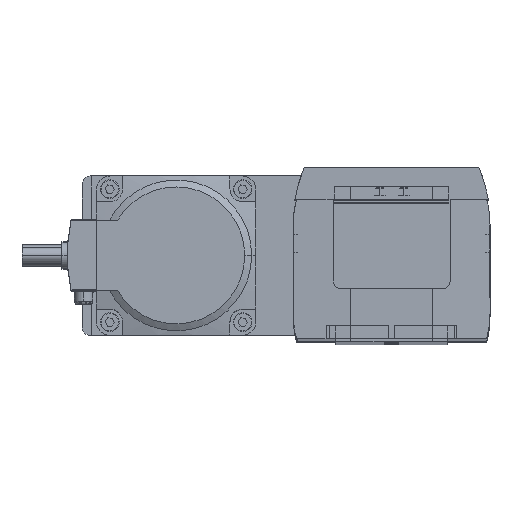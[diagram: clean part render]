
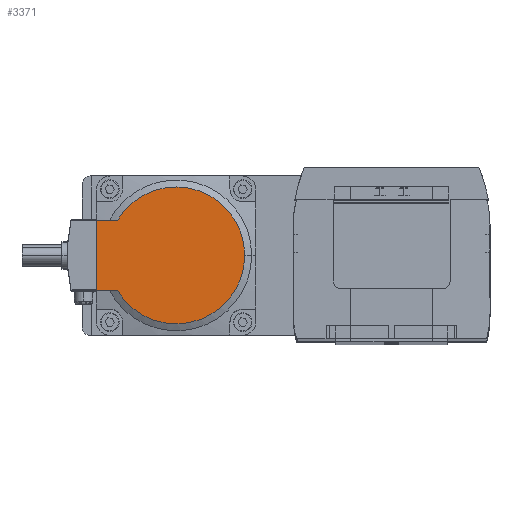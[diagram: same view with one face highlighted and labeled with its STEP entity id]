
A CAD part, top view. The second image highlights one B-rep face of the part: STEP entity #3371.
In plain terms, the highlighted planar face has unit normal (0, 0, 1).
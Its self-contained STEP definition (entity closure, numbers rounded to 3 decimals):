
#418 = ORIENTED_EDGE ( 'NONE', *, *, #11997, .F. ) ;
#1742 = CARTESIAN_POINT ( 'NONE',  ( 106.19, -17.281, 55. ) ) ;
#2260 = ORIENTED_EDGE ( 'NONE', *, *, #12032, .F. ) ;
#2594 = CIRCLE ( 'NONE', #16113, 25.75 ) ;
#2985 = VERTEX_POINT ( 'NONE', #18978 ) ;
#3371 = ADVANCED_FACE ( 'NONE', ( #19740 ), #18080, .F. ) ;
#4045 = DIRECTION ( 'NONE',  ( 1., 0., 0. ) ) ;
#4215 = VERTEX_POINT ( 'NONE', #28108 ) ;
#4541 = CARTESIAN_POINT ( 'NONE',  ( 76.19, -34.031, 55. ) ) ;
#5766 = VERTEX_POINT ( 'NONE', #11835 ) ;
#6729 = LINE ( 'NONE', #18194, #18090 ) ;
#6766 = DIRECTION ( 'NONE',  ( 0., 0., -1. ) ) ;
#6783 = CARTESIAN_POINT ( 'NONE',  ( 106.19, -4.031, 55. ) ) ;
#6958 = CARTESIAN_POINT ( 'NONE',  ( 106.19, -4.031, 55. ) ) ;
#7029 = ORIENTED_EDGE ( 'NONE', *, *, #21392, .T. ) ;
#7639 = EDGE_CURVE ( 'NONE', #14132, #4215, #17034, .T. ) ;
#9069 = DIRECTION ( 'NONE',  ( 1., 0., 0. ) ) ;
#9246 = DIRECTION ( 'NONE',  ( 1., 0., 0. ) ) ;
#10188 = CARTESIAN_POINT ( 'NONE',  ( 76.19, 9.219, 55. ) ) ;
#10474 = VECTOR ( 'NONE', #4045, 1000. ) ;
#11018 = VECTOR ( 'NONE', #16310, 1000. ) ;
#11835 = CARTESIAN_POINT ( 'NONE',  ( 84.111, 9.219, 55. ) ) ;
#11997 = EDGE_CURVE ( 'NONE', #5766, #2985, #13463, .T. ) ;
#12032 = EDGE_CURVE ( 'NONE', #14132, #5766, #6729, .T. ) ;
#13463 = CIRCLE ( 'NONE', #13572, 25.75 ) ;
#13572 = AXIS2_PLACEMENT_3D ( 'NONE', #6783, #22639, #9069 ) ;
#14132 = VERTEX_POINT ( 'NONE', #10188 ) ;
#16113 = AXIS2_PLACEMENT_3D ( 'NONE', #6958, #22813, #9246 ) ;
#16273 = EDGE_CURVE ( 'NONE', #2985, #26952, #2594, .T. ) ;
#16310 = DIRECTION ( 'NONE',  ( 0., -1., 0. ) ) ;
#16844 = EDGE_LOOP ( 'NONE', ( #418, #2260, #25132, #7029, #19745 ) ) ;
#17034 = LINE ( 'NONE', #25349, #11018 ) ;
#18080 = PLANE ( 'NONE',  #19382 ) ;
#18090 = VECTOR ( 'NONE', #20486, 1000. ) ;
#18194 = CARTESIAN_POINT ( 'NONE',  ( 106.19, 9.219, 55. ) ) ;
#18978 = CARTESIAN_POINT ( 'NONE',  ( 131.94, -4.031, 55. ) ) ;
#19382 = AXIS2_PLACEMENT_3D ( 'NONE', #4541, #6766, #22618 ) ;
#19740 = FACE_OUTER_BOUND ( 'NONE', #16844, .T. ) ;
#19745 = ORIENTED_EDGE ( 'NONE', *, *, #16273, .F. ) ;
#20486 = DIRECTION ( 'NONE',  ( 1., 0., 0. ) ) ;
#21392 = EDGE_CURVE ( 'NONE', #4215, #26952, #23243, .T. ) ;
#22618 = DIRECTION ( 'NONE',  ( 1., 0., 0. ) ) ;
#22639 = DIRECTION ( 'NONE',  ( 0., 0., -1. ) ) ;
#22813 = DIRECTION ( 'NONE',  ( 0., 0., -1. ) ) ;
#23243 = LINE ( 'NONE', #1742, #10474 ) ;
#25132 = ORIENTED_EDGE ( 'NONE', *, *, #7639, .T. ) ;
#25349 = CARTESIAN_POINT ( 'NONE',  ( 76.19, -4.031, 55. ) ) ;
#26952 = VERTEX_POINT ( 'NONE', #28071 ) ;
#28071 = CARTESIAN_POINT ( 'NONE',  ( 84.111, -17.281, 55. ) ) ;
#28108 = CARTESIAN_POINT ( 'NONE',  ( 76.19, -17.281, 55. ) ) ;
